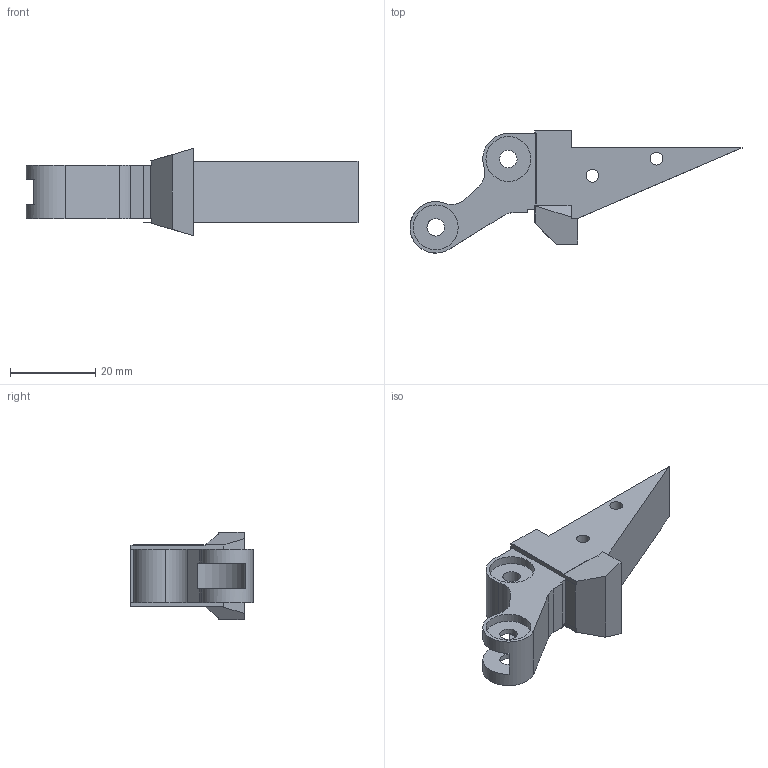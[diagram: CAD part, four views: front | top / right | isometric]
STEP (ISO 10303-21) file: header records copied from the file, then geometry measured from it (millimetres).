
FILE_DESCRIPTION (( 'STEP AP214' ), '1' );
FILE_NAME ('left-fingertip.step', '2026-11-14T03:54:20', ( '' ), ( '' ), 'SwSTEP 2.0', 'SolidWorks 2024', '' );
FILE_SCHEMA (( 'AUTOMOTIVE_DESIGN' ));
Length unit declared in the file: millimetre
Products named in the file (2): left-fingertip; 零件2^fingertip_merged_left
Assembly tree (1 placements, depth 2):
  left-fingertip
    零件2^fingertip_merged_left
Bounding box: 77.69 x 28.58 x 20.5 mm (x, y, z)
Volume: 11665.7 mm3; surface area: 5527 mm2
Topology: 1 solids, 1 shells, 65 faces, 177 edges, 118 vertices
Faces by surface type: plane 49, cylinder 16
Full cylindrical faces by diameter (mm): 3 x2, 4.1 x3, 10.5 x4
Entity records: 2030 total; most frequent: CARTESIAN_POINT 345, DIRECTION 335, ORIENTED_EDGE 326, EDGE_CURVE 163, VECTOR 129, LINE 129, VERTEX_POINT 113, AXIS2_PLACEMENT_3D 103
